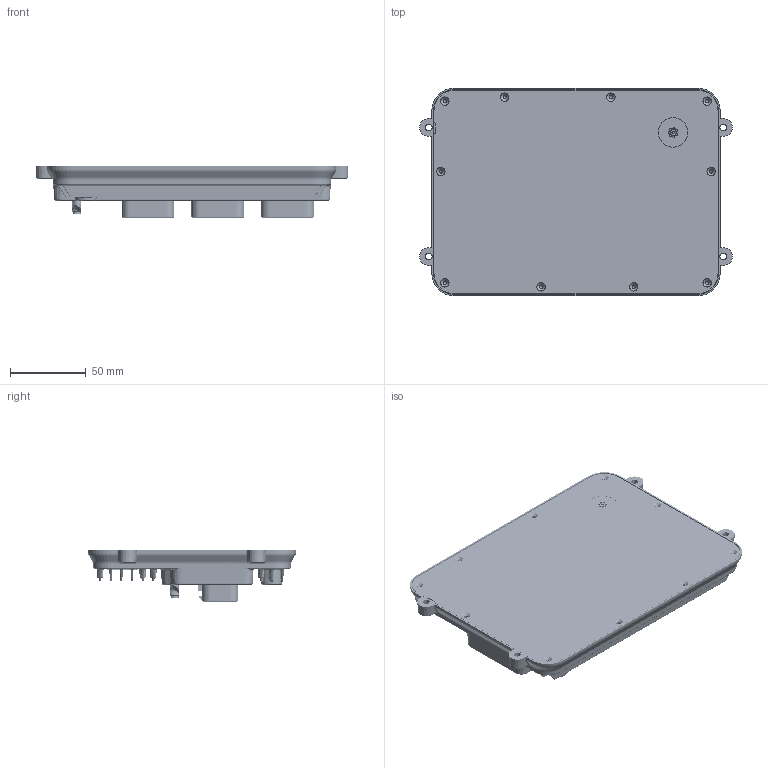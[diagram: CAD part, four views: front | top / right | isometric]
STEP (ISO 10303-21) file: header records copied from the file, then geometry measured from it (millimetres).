
FILE_DESCRIPTION(/* description */ (''),/* implementation_level */ '2;1');
FILE_NAME(/* name */ 'GEN2 TRACK.step',/* time_stamp */ '2026-07-18T19:56:38+02:00',/* author */ (''),/* organization */ (''),/* preprocessor_version */ 'ST-DEVELOPER v20.1',/* originating_system */ 'Autodesk Translation Framework v15.8.0.0',/* authorisation */ '');
FILE_SCHEMA (('AUTOMOTIVE_DESIGN { 1 0 10303 214 3 1 1 }'));
Products named in the file (12): 2026-07-18-19-46-43-226; SPORT+ Case; Back plate; 2026-07-18-19-49-50-023; PCB Component; Board; USB3106-XX-0230-X_REVB; ÕóÁÐ(ÏßÐÔ)2; CKK734SYG-1.6-11KSW; CKK734BSYG-1.6-11KSW; CKK734CSYG-1.6-11KSW; RHT-612-0611
Assembly tree (12 placements, depth 5):
  2026-07-18-19-46-43-226
    SPORT+ Case
    Back plate
    2026-07-18-19-49-50-023
      PCB Component
        Board
        USB3106-XX-0230-X_REVB  x2
          ÕóÁÐ(ÏßÐÔ)2
        CKK734SYG-1.6-11KSW
        CKK734BSYG-1.6-11KSW
        CKK734CSYG-1.6-11KSW
        RHT-612-0611
Bounding box: 205.84 x 137.01 x 33.6 mm (x, y, z)
Volume: 172798.3 mm3; surface area: 176395.6 mm2
Topology: 112 solids, 112 shells, 4073 faces, 10103 edges, 6252 vertices
Faces by surface type: plane 1518, cylinder 1144, bspline 672, cone 416, torus 313, sphere 10
Full cylindrical faces by diameter (mm): 0.2 x1, 0.4 x10, 0.681 x1, 1 x205, 1.45 x1, 1.5 x8, 2.075 x34, 2.6 x11, 3.25 x4, 4 x1, 4.2 x1, 4.5 x4, 4.67 x1, 5.267 x1, 5.489 x10, 6.259 x11, 6.5 x1, 7 x1, 8 x1, 8.707 x1, 10 x2, 11 x2, 11.6 x1, 12 x1, 13 x1, 14.6 x2, 15.62 x1, 19.5 x1
Entity records: 128919 total; most frequent: CARTESIAN_POINT 45916, DIRECTION 17204, ORIENTED_EDGE 17062, EDGE_CURVE 8531, AXIS2_PLACEMENT_3D 6742, VERTEX_POINT 5311, EDGE_LOOP 3972, LINE 3720
